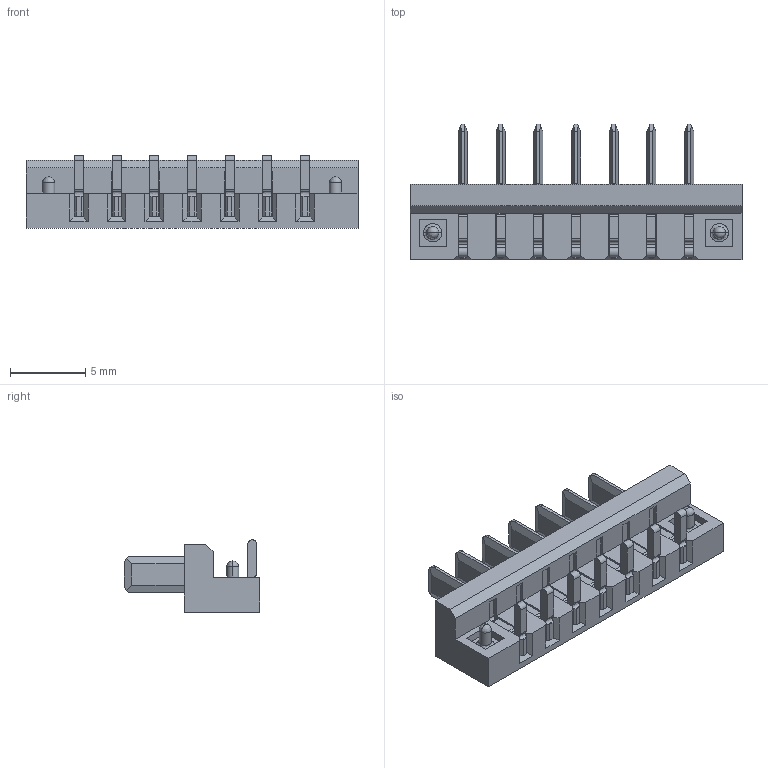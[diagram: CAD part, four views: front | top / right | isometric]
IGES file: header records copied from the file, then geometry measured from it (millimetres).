
Start section: SolidWorks IGES file using analytic representation for surfaces
Global section: file name: C:\Users\hsuan\Desktop\°õ¦æ§@·~\RFQ³æ\2026¦~\6¤ë\RB126060102\TSB1-02170-0DXXA[3D].IGS; native system: SolidWorks 2022; preprocessor: SolidWorks 2022; author: hsuan; date: 260623.103043; units: millimetre
Bounding box: 22 x 9 x 4.8 mm (x, y, z)
Surface area: 966.6 mm2 (no closed solid volume)
Topology: 0 solids, 0 shells, 444 faces, 3404 edges, 3400 vertices
Faces by surface type: bspline 282, revolution 162
